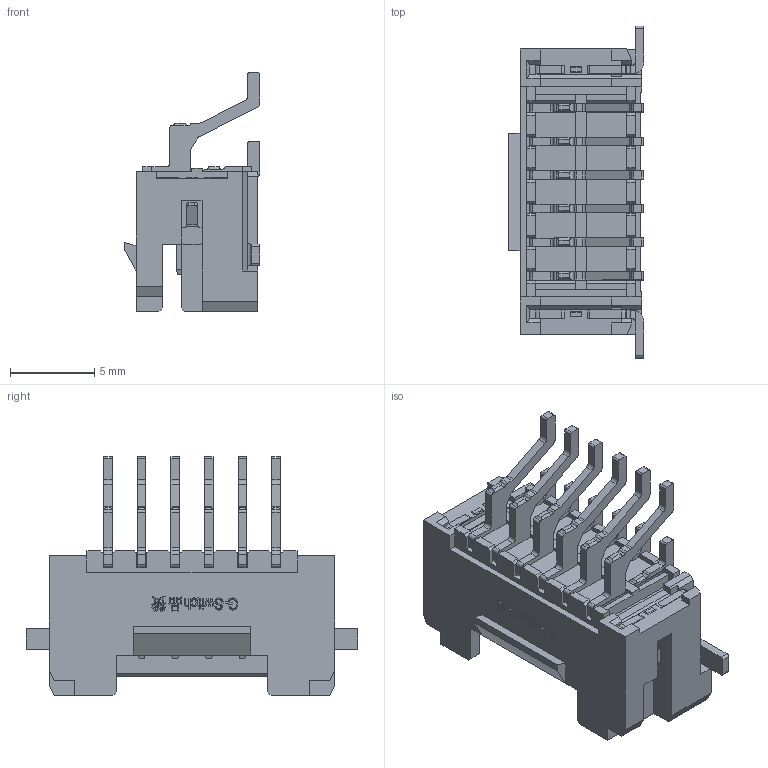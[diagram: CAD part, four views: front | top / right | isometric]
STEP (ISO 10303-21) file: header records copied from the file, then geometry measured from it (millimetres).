
FILE_DESCRIPTION (( 'STEP AP203' ), '1' );
FILE_NAME ('GT-A2006WRS-212SMT01.STEP', '2025-12-28T02:08:39', ( '' ), ( '' ), 'SwSTEP 2.0', 'SolidWorks 2020', '' );
FILE_SCHEMA (( 'CONFIG_CONTROL_DESIGN' ));
Length unit declared in the file: millimetre
Products named in the file (1): GT-A2006WRS-212SMT01
Bounding box: 8.05 x 19.75 x 14.2 mm (x, y, z)
Volume: 503.2 mm3; surface area: 1350.7 mm2
Topology: 1 solids, 1 shells, 1391 faces, 3984 edges, 2604 vertices
Faces by surface type: plane 1012, cylinder 304, bspline 75
Entity records: 49157 total; most frequent: CARTESIAN_POINT 12673, ORIENTED_EDGE 7968, DIRECTION 6978, EDGE_CURVE 3984, VECTOR 3196, LINE 3196, VERTEX_POINT 2604, AXIS2_PLACEMENT_3D 1891
